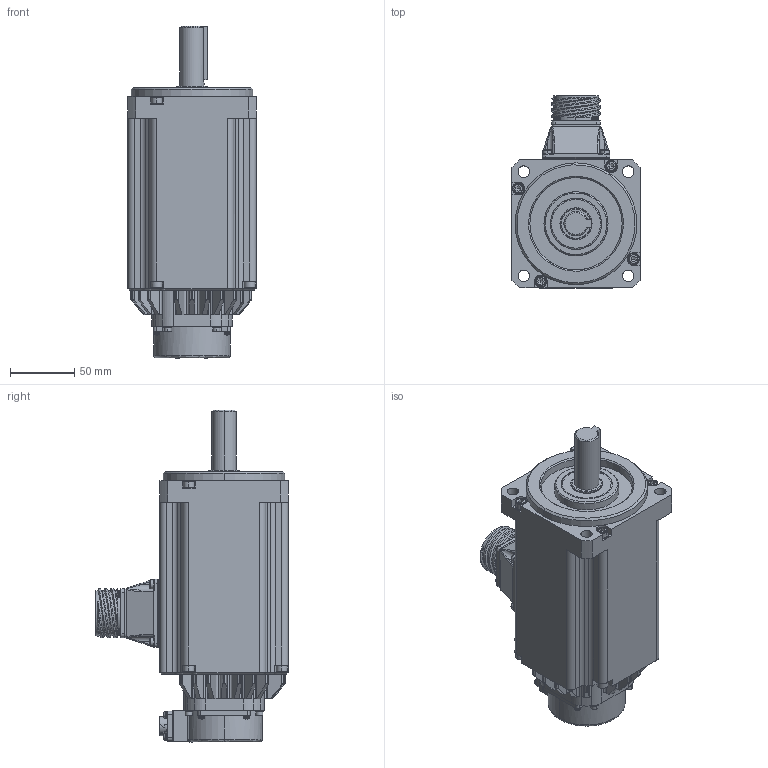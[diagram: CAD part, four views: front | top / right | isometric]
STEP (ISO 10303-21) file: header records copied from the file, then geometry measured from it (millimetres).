
FILE_DESCRIPTION (( 'STEP AP203' ), '1' );
FILE_NAME ('TSM3415N2371E731‘•”z.STEP', '2018-06-23T11:52:51', ( '' ), ( '' ), 'SwSTEP 2.0', 'SolidWorks 2017', '' );
FILE_SCHEMA (( 'CONFIG_CONTROL_DESIGN' ));
Length unit declared in the file: millimetre
Products named in the file (1): TSM3415N2371E731装配
Bounding box: 100 x 150 x 259 mm (x, y, z)
Volume: 1633585.9 mm3; surface area: 136218.3 mm2
Topology: 1 solids, 19 shells, 1792 faces, 4854 edges, 3164 vertices
Faces by surface type: plane 728, cylinder 557, bspline 348, cone 159
Entity records: 86162 total; most frequent: CARTESIAN_POINT 45898, ORIENTED_EDGE 9586, DIRECTION 6281, EDGE_CURVE 4793, VERTEX_POINT 3164, LINE 2349, VECTOR 2349, AXIS2_PLACEMENT_3D 1966
